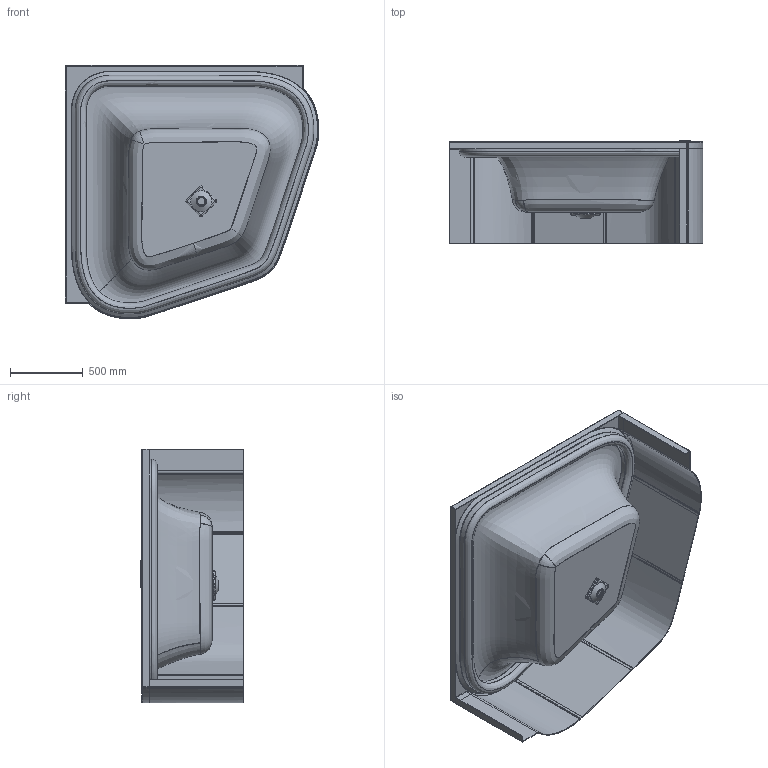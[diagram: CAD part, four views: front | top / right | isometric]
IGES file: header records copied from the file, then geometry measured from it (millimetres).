
Start section: SolidWorks IGES file using analytic representation for surfaces
Global section: file name: D:\Users\M.Szymanski\Desktop\Wanny\ergo-stripe\03. do przegrania\WS_ERGO_kpl_1640x1640.IGS; native system: SolidWorks 2011; preprocessor: SolidWorks 2011; author: M.Szymanski; date: 181218.081350; units: millimetre
Bounding box: 1748 x 708.4 x 1748 mm (x, y, z)
Surface area: 9435846.9 mm2 (no closed solid volume)
Topology: 0 solids, 0 shells, 383 faces, 2804 edges, 3605 vertices
Faces by surface type: bspline 227, revolution 156
